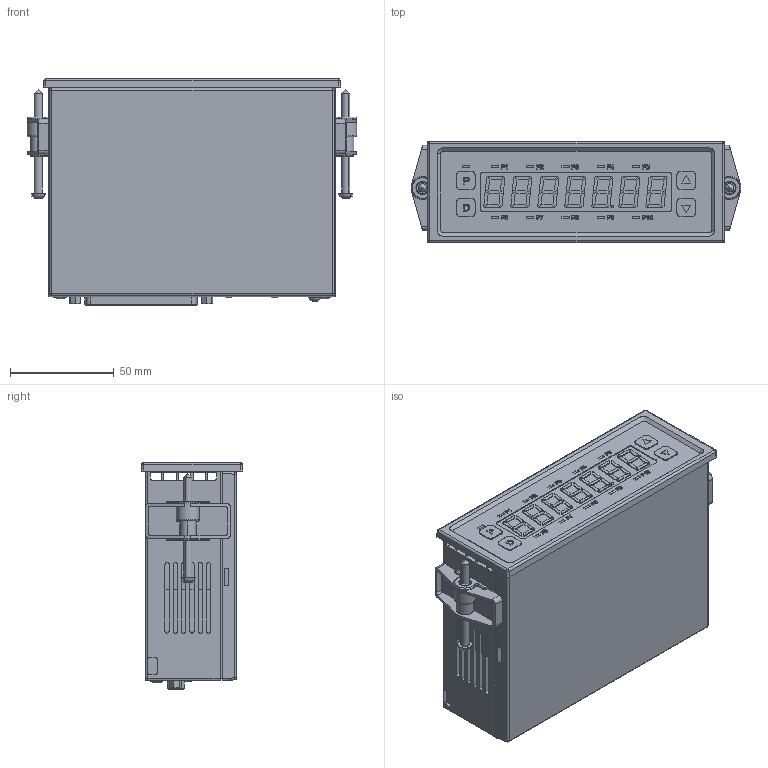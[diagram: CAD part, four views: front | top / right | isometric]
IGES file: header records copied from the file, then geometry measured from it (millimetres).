
Start section: SolidWorks IGES file using analytic representation for surfaces
Bounding box: 158.6 x 49 x 109 mm (x, y, z)
Surface area: 134990.2 mm2 (no closed solid volume)
Topology: 0 solids, 0 shells, 2706 faces, 22610 edges, 22588 vertices
Faces by surface type: bspline 2144, revolution 562
